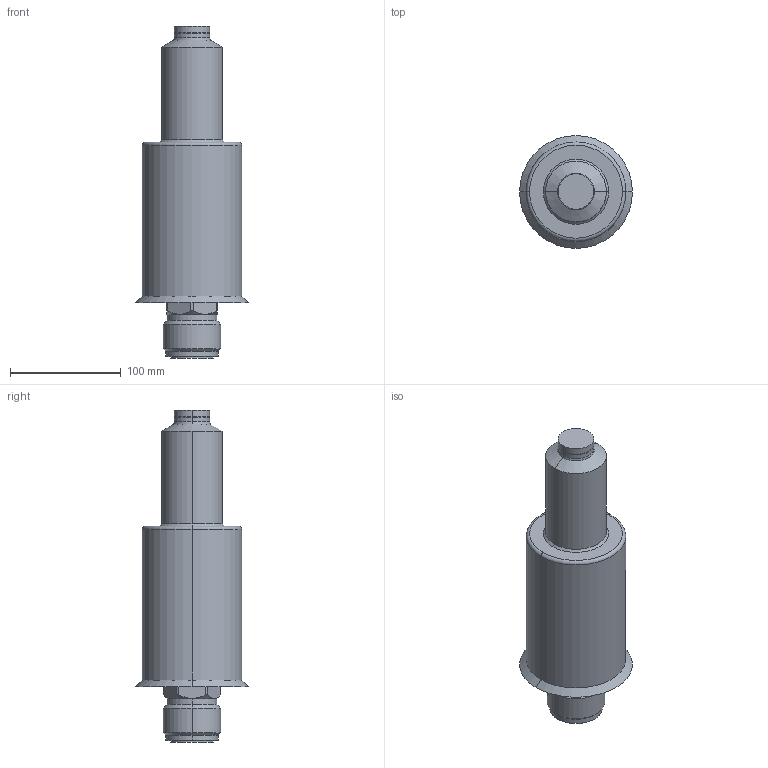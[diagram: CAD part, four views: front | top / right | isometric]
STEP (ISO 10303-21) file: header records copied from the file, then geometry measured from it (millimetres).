
FILE_DESCRIPTION (( 'STEP AP214' ), '1' );
FILE_NAME ('T20_CLOSED_250_BAND_RD.STEP', '2016-09-08T15:52:12', ( '' ), ( '' ), 'SwSTEP 2.0', 'SolidWorks 2015', '' );
FILE_SCHEMA (( 'AUTOMOTIVE_DESIGN' ));
Length unit declared in the file: millimetre
Products named in the file (1): T20_CLOSED_250_BAND_RD
Bounding box: 102 x 102 x 300 mm (x, y, z)
Volume: 1701280.5 mm3; surface area: 132891.9 mm2
Topology: 2 solids, 2 shells, 414 faces, 1049 edges, 652 vertices
Faces by surface type: plane 159, cylinder 155, torus 64, cone 28, sphere 4, bspline 4
Entity records: 18315 total; most frequent: CARTESIAN_POINT 3664, DIRECTION 2184, ORIENTED_EDGE 2090, EDGE_CURVE 1045, AXIS2_PLACEMENT_3D 850, VERTEX_POINT 652, VECTOR 484, LINE 484
